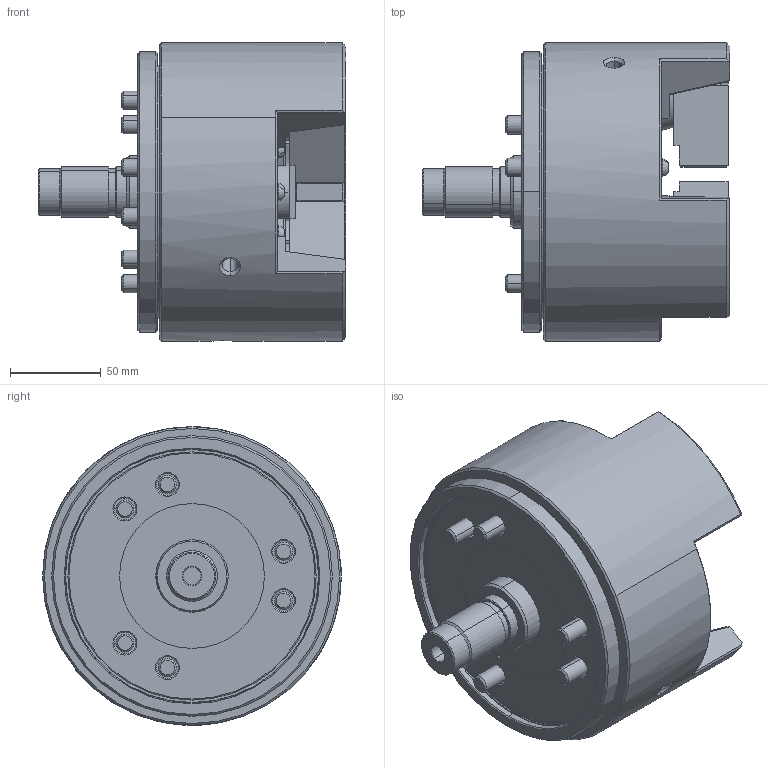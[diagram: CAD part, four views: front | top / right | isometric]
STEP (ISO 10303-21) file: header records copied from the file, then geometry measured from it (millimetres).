
FILE_DESCRIPTION (( 'STEP AP203' ), '1' );
FILE_NAME ('PU206_OC.STEP', '2025-02-14T01:12:52', ( '' ), ( '' ), 'SwSTEP 2.0', 'SolidWorks 2022', '' );
FILE_SCHEMA (( 'CONFIG_CONTROL_DESIGN' ));
Length unit declared in the file: millimetre
Products named in the file (7): Part1^61P224612_dummy; 61P427269; 0030110025; 0030110070; 0033105010; 61P332352; PU206_OC
Assembly tree (17 placements, depth 2):
  PU206_OC
    61P332352  x3
    61P427269
    0033105010  x3
    0030110025  x3
    0030110070  x6
    Part1^61P224612_dummy
Bounding box: 170 x 165 x 165 mm (x, y, z)
Volume: 1784579.2 mm3; surface area: 198825.7 mm2
Topology: 17 solids, 17 shells, 1066 faces, 2726 edges, 1744 vertices
Faces by surface type: plane 470, cone 220, cylinder 188, bspline 165, torus 21, sphere 2
Entity records: 36796 total; most frequent: CARTESIAN_POINT 16619, ORIENTED_EDGE 4336, DIRECTION 3368, EDGE_CURVE 2168, VERTEX_POINT 1405, AXIS2_PLACEMENT_3D 1135, LINE 1098, VECTOR 1098
